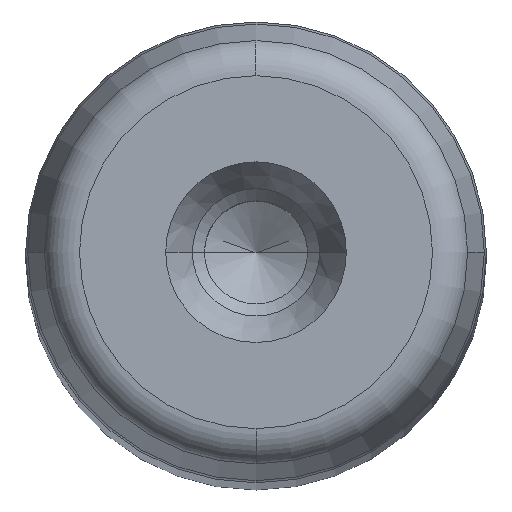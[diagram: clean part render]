
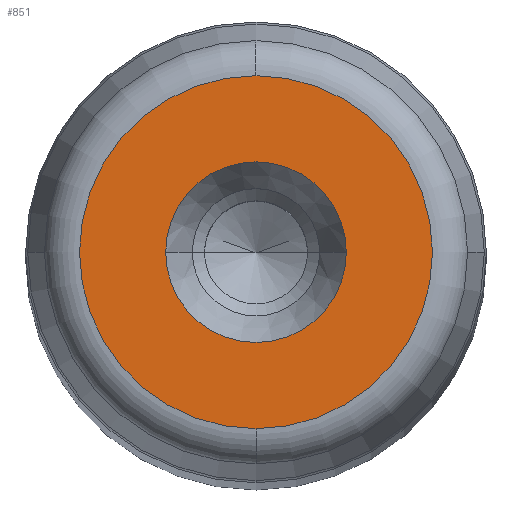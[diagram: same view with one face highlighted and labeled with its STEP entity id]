
A CAD part, top view. The second image highlights one B-rep face of the part: STEP entity #851.
In plain terms, the highlighted planar face has unit normal (0, 0, 1) as drawn and (0, 1, 0) by its records, which use the part's own axes.
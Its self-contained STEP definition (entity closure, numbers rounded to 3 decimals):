
#281=CARTESIAN_POINT('',(7.45,355.0,0.0));
#282=VERTEX_POINT('',#281);
#289=CARTESIAN_POINT('',(-7.45,355.0,0.));
#290=VERTEX_POINT('',#289);
#291=CARTESIAN_POINT('',(0.0,355.0,0.0));
#292=DIRECTION('',(0.0,1.0,0.0));
#293=DIRECTION('',(1.0,0.0,0.0));
#294=AXIS2_PLACEMENT_3D('',#291,#292,#293);
#295=CIRCLE('',#294,7.45);
#296=EDGE_CURVE('',#282,#290,#295,.T.);
#313=CARTESIAN_POINT('',(0.0,355.,14.554));
#314=VERTEX_POINT('',#313);
#324=CARTESIAN_POINT('',(0.,355.,-14.554));
#325=VERTEX_POINT('',#324);
#326=CARTESIAN_POINT('',(0.0,355.,0.0));
#327=DIRECTION('',(0.0,1.0,0.0));
#328=DIRECTION('',(1.0,0.0,0.0));
#329=AXIS2_PLACEMENT_3D('',#326,#327,#328);
#330=CIRCLE('',#329,14.554);
#331=EDGE_CURVE('',#325,#314,#330,.T.);
#812=CARTESIAN_POINT('',(14.554,355.,0.0));
#813=VERTEX_POINT('',#812);
#814=CARTESIAN_POINT('',(0.0,355.,0.0));
#815=DIRECTION('',(0.0,1.0,0.0));
#816=DIRECTION('',(1.0,0.0,0.0));
#817=AXIS2_PLACEMENT_3D('',#814,#815,#816);
#818=CIRCLE('',#817,14.554);
#819=EDGE_CURVE('',#813,#325,#818,.T.);
#821=CARTESIAN_POINT('',(0.0,355.,0.0));
#822=DIRECTION('',(0.0,1.0,0.0));
#823=DIRECTION('',(1.0,0.0,0.0));
#824=AXIS2_PLACEMENT_3D('',#821,#822,#823);
#825=CIRCLE('',#824,14.554);
#826=EDGE_CURVE('',#314,#813,#825,.T.);
#831=CARTESIAN_POINT('',(-16.01,355.0,-16.01));
#832=DIRECTION('',(0.0,1.0,0.0));
#833=DIRECTION('',(0.0,0.0,1.0));
#834=AXIS2_PLACEMENT_3D('',#831,#832,#833);
#835=PLANE('',#834);
#836=ORIENTED_EDGE('',*,*,#819,.T.);
#837=ORIENTED_EDGE('',*,*,#331,.T.);
#838=ORIENTED_EDGE('',*,*,#826,.T.);
#839=EDGE_LOOP('',(#836,#837,#838));
#840=FACE_OUTER_BOUND('',#839,.T.);
#841=ORIENTED_EDGE('',*,*,#296,.F.);
#842=CARTESIAN_POINT('',(0.0,355.0,0.0));
#843=DIRECTION('',(0.0,1.0,0.0));
#844=DIRECTION('',(1.0,0.0,0.0));
#845=AXIS2_PLACEMENT_3D('',#842,#843,#844);
#846=CIRCLE('',#845,7.45);
#847=EDGE_CURVE('',#290,#282,#846,.T.);
#848=ORIENTED_EDGE('',*,*,#847,.F.);
#849=EDGE_LOOP('',(#841,#848));
#850=FACE_BOUND('',#849,.T.);
#851=ADVANCED_FACE('',(#840,#850),#835,.T.);
